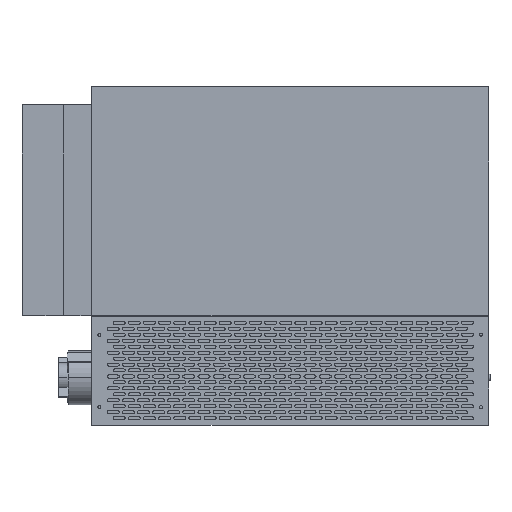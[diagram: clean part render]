
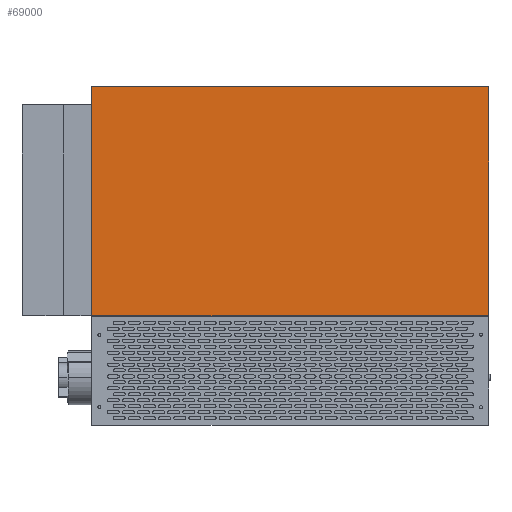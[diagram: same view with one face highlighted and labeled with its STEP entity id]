
A CAD part, top view. The second image highlights one B-rep face of the part: STEP entity #69000.
In plain terms, the highlighted planar face has unit normal (0, 0, 1).
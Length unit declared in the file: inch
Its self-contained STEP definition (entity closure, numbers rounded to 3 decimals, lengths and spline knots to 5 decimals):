
#563 = DIRECTION ( 'NONE',  ( 1., 0., 0. ) ) ;
#2845 = EDGE_CURVE ( 'NONE', #105818, #49654, #24185, .T. ) ;
#5808 = CARTESIAN_POINT ( 'NONE',  ( -12.96875, 22.125, 2.5625 ) ) ;
#8957 = CARTESIAN_POINT ( 'NONE',  ( -12.96875, 7.164, 2.5625 ) ) ;
#11801 = DIRECTION ( 'NONE',  ( -1., 0., 0. ) ) ;
#14329 = VERTEX_POINT ( 'NONE', #5808 ) ;
#16453 = CARTESIAN_POINT ( 'NONE',  ( -12.96875, 22.125, 2.5625 ) ) ;
#16985 = VECTOR ( 'NONE', #563, 39.37008 ) ;
#19912 = CARTESIAN_POINT ( 'NONE',  ( 12.96875, 7.164, 2.5625 ) ) ;
#20153 = CARTESIAN_POINT ( 'NONE',  ( -12.96875, 22.125, 2.5625 ) ) ;
#24185 = LINE ( 'NONE', #55946, #25039 ) ;
#24690 = EDGE_CURVE ( 'NONE', #49654, #50658, #42341, .T. ) ;
#24701 = LINE ( 'NONE', #16453, #16985 ) ;
#25039 = VECTOR ( 'NONE', #41131, 39.37008 ) ;
#25956 = DIRECTION ( 'NONE',  ( -1., 0., 0. ) ) ;
#27664 = ORIENTED_EDGE ( 'NONE', *, *, #42201, .F. ) ;
#28268 = DIRECTION ( 'NONE',  ( 0., 0., -1. ) ) ;
#35406 = CARTESIAN_POINT ( 'NONE',  ( 12.96875, 22.125, 2.5625 ) ) ;
#37124 = EDGE_CURVE ( 'NONE', #14329, #50658, #86893, .T. ) ;
#38726 = DIRECTION ( 'NONE',  ( 0., -1., 0. ) ) ;
#40858 = EDGE_LOOP ( 'NONE', ( #68867, #83613, #56925, #27664 ) ) ;
#41131 = DIRECTION ( 'NONE',  ( 0., -1., 0. ) ) ;
#42201 = EDGE_CURVE ( 'NONE', #14329, #105818, #24701, .T. ) ;
#42341 = LINE ( 'NONE', #8957, #58892 ) ;
#49654 = VERTEX_POINT ( 'NONE', #19912 ) ;
#50658 = VERTEX_POINT ( 'NONE', #101089 ) ;
#55946 = CARTESIAN_POINT ( 'NONE',  ( 12.96875, 22.125, 2.5625 ) ) ;
#56925 = ORIENTED_EDGE ( 'NONE', *, *, #2845, .F. ) ;
#58892 = VECTOR ( 'NONE', #25956, 39.37008 ) ;
#60015 = PLANE ( 'NONE',  #66734 ) ;
#66734 = AXIS2_PLACEMENT_3D ( 'NONE', #85167, #28268, #11801 ) ;
#68867 = ORIENTED_EDGE ( 'NONE', *, *, #37124, .T. ) ;
#69000 = ADVANCED_FACE ( 'NONE', ( #69849 ), #60015, .F. ) ;
#69849 = FACE_OUTER_BOUND ( 'NONE', #40858, .T. ) ;
#83613 = ORIENTED_EDGE ( 'NONE', *, *, #24690, .F. ) ;
#85167 = CARTESIAN_POINT ( 'NONE',  ( -12.96875, 22.125, 2.5625 ) ) ;
#85490 = VECTOR ( 'NONE', #38726, 39.37008 ) ;
#86893 = LINE ( 'NONE', #20153, #85490 ) ;
#101089 = CARTESIAN_POINT ( 'NONE',  ( -12.96875, 7.164, 2.5625 ) ) ;
#105818 = VERTEX_POINT ( 'NONE', #35406 ) ;
